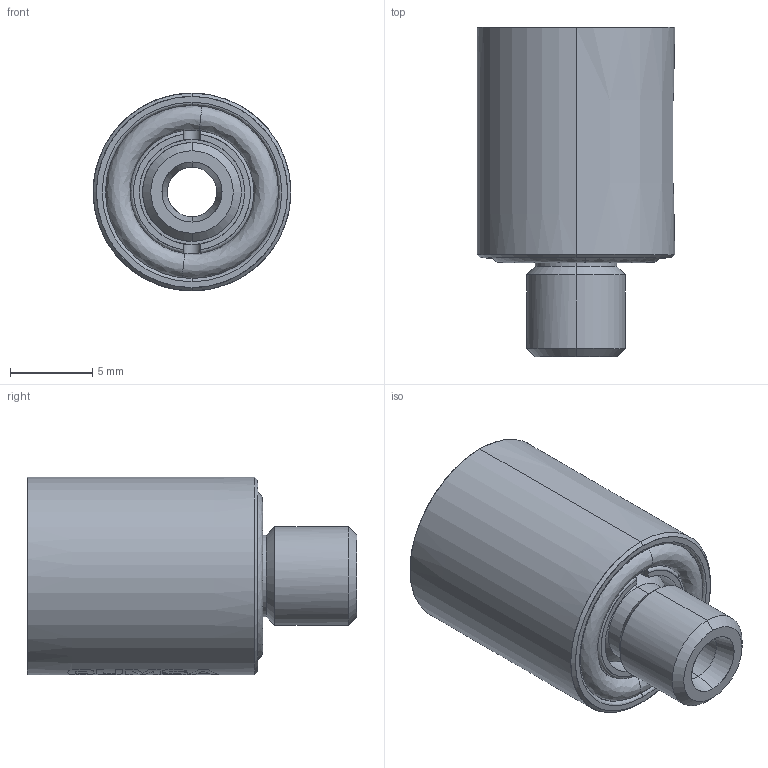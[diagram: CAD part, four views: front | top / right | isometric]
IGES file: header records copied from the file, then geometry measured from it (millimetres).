
Start section: START RECORD GO HERE.
Global section: file name: sa120314.igs; native system: DASSAULT SYSTEMES CATIA V5 R20 - www.3ds.com; preprocessor: CATIA Version 5 Release 20 ; author: Utente; organization: NB04-ASUS; date: 20201107.131857; units: millimetre
Bounding box: 12 x 20 x 12 mm (x, y, z)
Surface area: 2005.2 mm2 (no closed solid volume)
Topology: 0 solids, 0 shells, 500 faces, 2835 edges, 2835 vertices
Faces by surface type: bspline 279, plane 114, revolution 107
